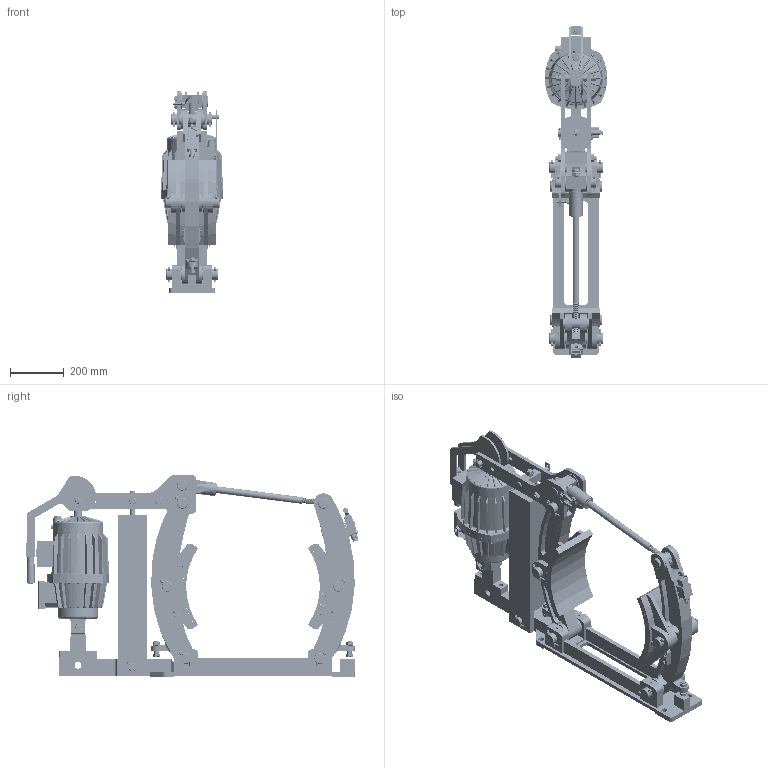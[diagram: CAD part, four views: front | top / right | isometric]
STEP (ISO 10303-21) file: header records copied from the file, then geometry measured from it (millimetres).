
FILE_DESCRIPTION((''),'2;1');
FILE_NAME('4459_504_503_E00001','2018-02-01T',('BOLS'),(''),'CREO PARAMETRIC BY PTC INC, 2017020','CREO PARAMETRIC BY PTC INC, 2017020','');
FILE_SCHEMA(('CONFIG_CONTROL_DESIGN'));
Products named in the file (1): 4459_504_503_E00001
Bounding box: 234 x 1241.14 x 758.3 mm (x, y, z)
Surface area: 3932542.8 mm2 (no closed solid volume)
Topology: 0 solids, 2942 shells, 3386 faces, 22284 edges, 21336 vertices
Faces by surface type: plane 1506, cylinder 1106, cone 525, torus 233, bspline 16
Entity records: 379231 total; most frequent: CARTESIAN_POINT 123043, PRESENTATION_STYLE_ASSIGNMENT 28505, STYLED_ITEM 25120, DIRECTION 23615, ORIENTED_EDGE 23078, CURVE_STYLE 22179, EDGE_CURVE 22179, VERTEX_POINT 21290
